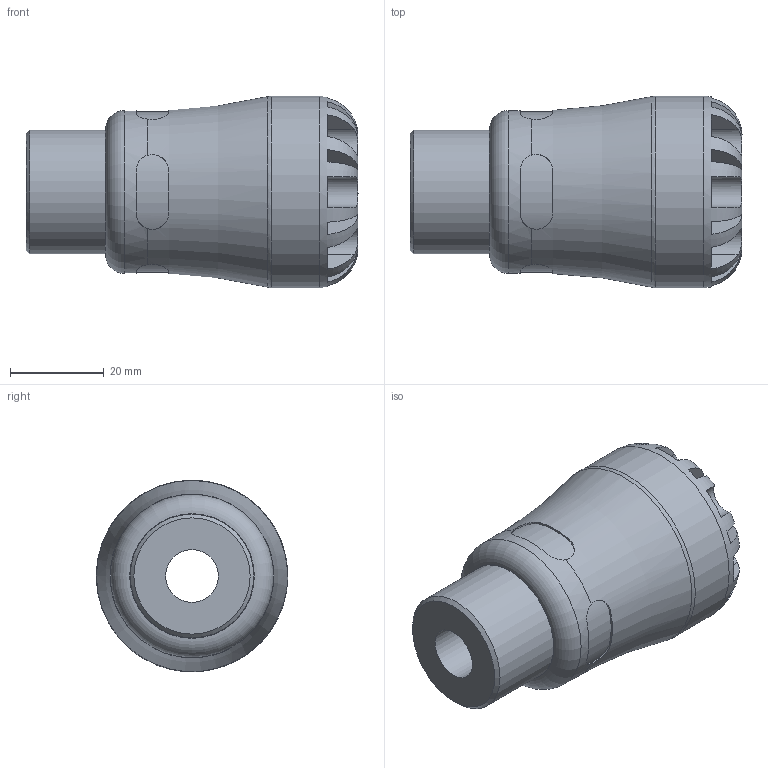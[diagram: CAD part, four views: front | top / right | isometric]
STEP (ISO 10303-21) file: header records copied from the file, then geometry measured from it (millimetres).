
FILE_DESCRIPTION(/* description */ ('PLASSON MALE COPPER ADAPTOR 15X3/4" SERIES 1PLASSON MALE COPPER ADAPTOR 22X3/4" SERIES 1'),/* implementation_level */ '2;1');
FILE_NAME(/* name */ 'C:\Dropbox\KIMPROJECTS-Inventor\99-16-3568-Processing\1002\X2\0421\X0\\1002C7015007.ipt.step',/* time_stamp */ '2017-05-15T11:05:29+03:00',/* author */ ('KIM'),/* organization */ (''),/* preprocessor_version */ 'ST-DEVELOPER v15.6',/* originating_system */ 'Autodesk Inventor 2015',/* authorisation */ '');
FILE_SCHEMA (('AUTOMOTIVE_DESIGN { 1 0 10303 214 3 1 1 }'));
Length unit declared in the file: millimetre
Products named in the file (1): 1002C7015007
Bounding box: 71 x 41 x 41 mm (x, y, z)
Volume: 55791.9 mm3; surface area: 13552.7 mm2
Topology: 1 solids, 1 shells, 99 faces, 255 edges, 160 vertices
Faces by surface type: plane 60, cylinder 33, torus 4, cone 2
Full cylindrical faces by diameter (mm): 11.25 x1, 15 x1, 26.441 x1, 34.85 x1, 41 x1
Entity records: 3845 total; most frequent: CARTESIAN_POINT 1444, ORIENTED_EDGE 482, DIRECTION 458, EDGE_CURVE 241, AXIS2_PLACEMENT_3D 189, VERTEX_POINT 157, EDGE_LOOP 114, STYLED_ITEM 100
